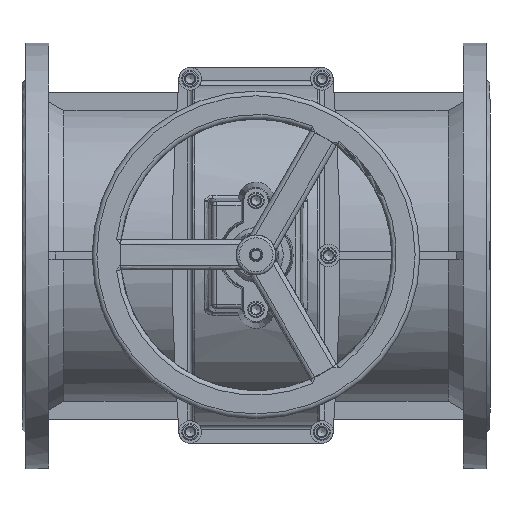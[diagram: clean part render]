
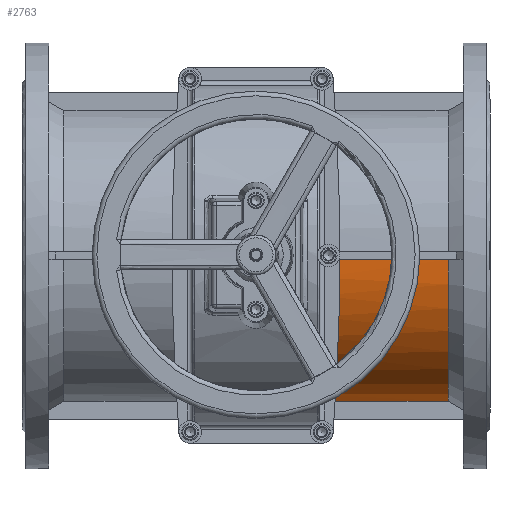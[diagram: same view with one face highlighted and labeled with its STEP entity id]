
A CAD part, top view. The second image highlights one B-rep face of the part: STEP entity #2763.
In plain terms, the highlighted cylindrical face has radius 158.167 mm (diameter 316.333 mm), a partial arc.
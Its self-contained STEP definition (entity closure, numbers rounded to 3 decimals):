
#2763=ADVANCED_FACE('',(#6718),#6720,.T.);
#6718=FACE_BOUND('',#6719,.T.);
#6719=EDGE_LOOP('',(#16704,#16705,#16706,#16707));
#6720=CYLINDRICAL_SURFACE('',#6721,158.167);
#6721=AXIS2_PLACEMENT_3D('',#6722,#6723,#6724);
#6722=CARTESIAN_POINT('',(221.5,0.,0.));
#6723=DIRECTION('',(-1.,0.,0.));
#6724=DIRECTION('',(0.,-1.,0.));
#16704=ORIENTED_EDGE('',*,*,#20320,.F.);
#16705=ORIENTED_EDGE('',*,*,#20321,.T.);
#16706=ORIENTED_EDGE('',*,*,#20322,.F.);
#16707=ORIENTED_EDGE('',*,*,#19876,.T.);
#19876=EDGE_CURVE('',#22255,#22253,#22256,.F.);
#20320=EDGE_CURVE('',#22942,#22253,#22944,.T.);
#20321=EDGE_CURVE('',#22942,#22945,#22946,.T.);
#20322=EDGE_CURVE('',#22255,#22945,#22947,.F.);
#22253=VERTEX_POINT('',#28185);
#22255=VERTEX_POINT('',#28189);
#22256=(BOUNDED_CURVE()B_SPLINE_CURVE(3,
(#28190,#28191,#28192,#28193),
.UNSPECIFIED.,.F.,.F.)B_SPLINE_CURVE_WITH_KNOTS((4,4),
(0.,1.),
.UNSPECIFIED.)CURVE()GEOMETRIC_REPRESENTATION_ITEM()RATIONAL_B_SPLINE_CURVE((1.,
0.853,0.853,1.))REPRESENTATION_ITEM(''));
#22942=VERTEX_POINT('',#30261);
#22944=LINE('',#30272,#30273);
#22945=VERTEX_POINT('',#30275);
#22946=CIRCLE('',#30276,158.167);
#22947=LINE('',#30280,#30281);
#28185=CARTESIAN_POINT('',(59.739,-155.296,30.));
#28189=CARTESIAN_POINT('',(66.453,-4.083,158.114));
#28190=CARTESIAN_POINT('',(59.739,-155.296,30.));
#28191=CARTESIAN_POINT('',(63.724,-140.605,106.047));
#28192=CARTESIAN_POINT('',(66.348,-81.51,156.114));
#28193=CARTESIAN_POINT('',(66.453,-4.083,158.114));
#30261=CARTESIAN_POINT('',(205.167,-155.296,30.));
#30272=CARTESIAN_POINT('',(205.167,-155.296,30.));
#30273=VECTOR('',#30274,1.);
#30274=DIRECTION('',(-1.,0.,0.));
#30275=CARTESIAN_POINT('',(205.167,-4.083,158.114));
#30276=AXIS2_PLACEMENT_3D('',#30277,#30278,#30279);
#30277=CARTESIAN_POINT('',(205.167,0.,0.));
#30278=DIRECTION('',(-1.,0.,0.));
#30279=DIRECTION('',(0.,-0.982,0.19));
#30280=CARTESIAN_POINT('',(205.167,-4.083,158.114));
#30281=VECTOR('',#30282,1.);
#30282=DIRECTION('',(-1.,0.,0.));
